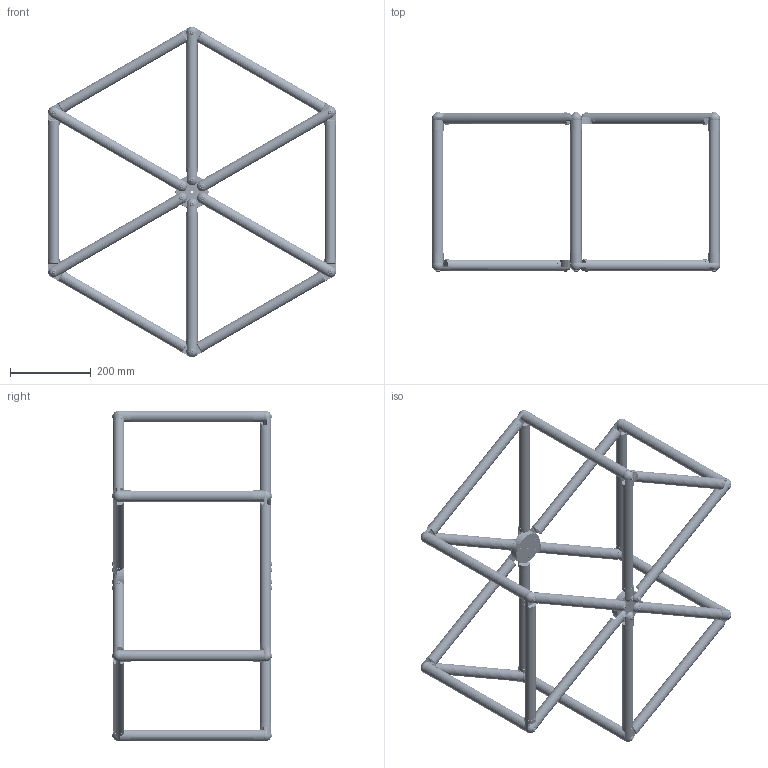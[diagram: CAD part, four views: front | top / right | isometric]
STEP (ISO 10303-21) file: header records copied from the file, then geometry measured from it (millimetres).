
FILE_DESCRIPTION (( 'STEP AP214' ), '1' );
FILE_NAME ('Six Sided Frame With Puck.STEP', '2013-12-10T14:21:00', ( 'ydmin' ), ( 'Microsoft' ), 'SwSTEP 2.0', 'SolidWorks 2013', '' );
FILE_SCHEMA (( 'AUTOMOTIVE_DESIGN' ));
Length unit declared in the file: inch
Products named in the file (8): 13.175 Tube; DRP-002-0509-00; 91255A542_91255A542; DRP-002-0513-00; 12 Inch Tube; DRP-002-0511-00; DRP-002-0533-00; Six Sided Frame With Puck
Assembly tree (98 placements, depth 2):
  Six Sided Frame With Puck
    DRP-002-0533-00  x2
    DRP-002-0511-00  x24
    12 Inch Tube  x18
    DRP-002-0513-00  x12
    91255A542_91255A542  x24
    DRP-002-0509-00  x12
    13.175 Tube  x6
Bounding box: 715.19 x 396.7 x 821.41 mm (x, y, z)
Volume: 1926108.1 mm3; surface area: 1852899.3 mm2
Topology: 110 solids, 110 shells, 5912 faces, 12400 edges, 6768 vertices
Faces by surface type: cylinder 2552, cone 2384, plane 688, torus 96, sphere 96, bspline 96
Entity records: 15346 total; most frequent: CARTESIAN_POINT 7624, DIRECTION 1533, ORIENTED_EDGE 1260, AXIS2_PLACEMENT_3D 632, EDGE_CURVE 630, VERTEX_POINT 357, EDGE_LOOP 327, ADVANCED_FACE 296
